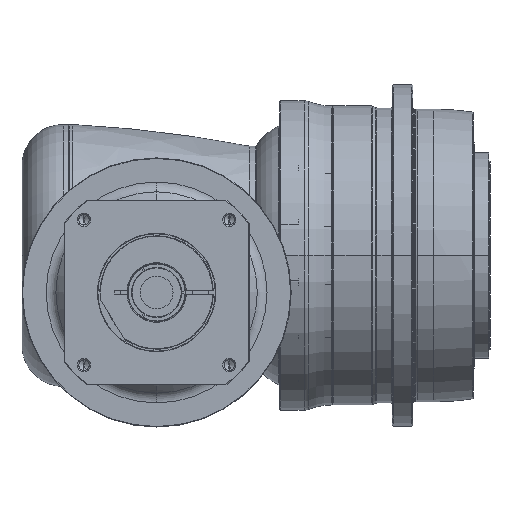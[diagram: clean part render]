
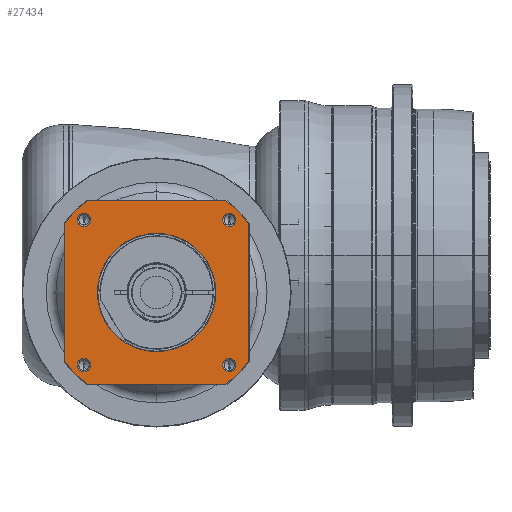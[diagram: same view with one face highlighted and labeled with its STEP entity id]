
A CAD part, front view. The second image highlights one B-rep face of the part: STEP entity #27434.
In plain terms, the highlighted planar face has unit normal (0, -1, 0) as drawn and (0, 0, 1) by its records, which use the part's own axes.
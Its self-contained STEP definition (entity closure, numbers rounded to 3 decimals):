
#26162=DIRECTION('',(1.,0.,0.));
#26163=VECTOR('',#26162,134.666);
#26164=CARTESIAN_POINT('',(-67.333,-89.5,54.));
#26165=LINE('',#26164,#26163);
#26175=CARTESIAN_POINT('',(0.,0.,54.));
#26176=DIRECTION('',(0.,0.,-1.));
#26177=DIRECTION('',(0.,-1.,0.));
#26178=AXIS2_PLACEMENT_3D('',#26175,#26176,#26177);
#26180=CARTESIAN_POINT('',(0.,0.,
54.));
#26181=DIRECTION('',(0.,0.,-1.));
#26182=DIRECTION('',(0.,1.,0.));
#26183=AXIS2_PLACEMENT_3D('',#26180,#26181,#26182);
#26185=CARTESIAN_POINT('',(0.,0.,54.));
#26186=DIRECTION('',(0.,0.,1.));
#26187=DIRECTION('',(-0.799,-0.601,0.));
#26188=AXIS2_PLACEMENT_3D('',#26185,#26186,#26187);
#26200=DIRECTION('',(0.,-1.,0.));
#26201=VECTOR('',#26200,134.666);
#26202=CARTESIAN_POINT('',(-89.5,67.333,54.));
#26203=LINE('',#26202,#26201);
#26213=CARTESIAN_POINT('',(0.,0.,54.));
#26214=DIRECTION('',(0.,0.,1.));
#26215=DIRECTION('',(-0.601,0.799,0.));
#26216=AXIS2_PLACEMENT_3D('',#26213,#26214,#26215);
#26241=DIRECTION('',(-1.,0.,0.));
#26242=VECTOR('',#26241,134.666);
#26243=CARTESIAN_POINT('',(67.333,89.5,54.));
#26244=LINE('',#26243,#26242);
#26249=CARTESIAN_POINT('',(0.,0.,54.));
#26250=DIRECTION('',(0.,0.,1.));
#26251=DIRECTION('',(0.799,0.601,0.));
#26252=AXIS2_PLACEMENT_3D('',#26249,#26250,#26251);
#26264=DIRECTION('',(0.,1.,0.));
#26265=VECTOR('',#26264,134.666);
#26266=CARTESIAN_POINT('',(89.5,-67.333,54.));
#26267=LINE('',#26266,#26265);
#26369=CARTESIAN_POINT('',(0.,0.,54.));
#26370=DIRECTION('',(0.,0.,1.));
#26371=DIRECTION('',(0.601,-0.799,0.));
#26372=AXIS2_PLACEMENT_3D('',#26369,#26370,#26371);
#26651=CARTESIAN_POINT('',(-70.711,70.711,54.));
#26652=DIRECTION('',(0.,0.,1.));
#26653=DIRECTION('',(-1.,0.,0.));
#26654=AXIS2_PLACEMENT_3D('',#26651,#26652,#26653);
#26669=CARTESIAN_POINT('',(-70.711,70.711,54.));
#26670=DIRECTION('',(0.,0.,1.));
#26671=DIRECTION('',(1.,0.,0.));
#26672=AXIS2_PLACEMENT_3D('',#26669,#26670,#26671);
#26705=CARTESIAN_POINT('',(70.711,70.711,54.));
#26706=DIRECTION('',(0.,0.,1.));
#26707=DIRECTION('',(-1.,0.,0.));
#26708=AXIS2_PLACEMENT_3D('',#26705,#26706,#26707);
#26723=CARTESIAN_POINT('',(70.711,70.711,54.));
#26724=DIRECTION('',(0.,0.,1.));
#26725=DIRECTION('',(1.,0.,0.));
#26726=AXIS2_PLACEMENT_3D('',#26723,#26724,#26725);
#26759=CARTESIAN_POINT('',(70.711,-70.711,54.));
#26760=DIRECTION('',(0.,0.,1.));
#26761=DIRECTION('',(-1.,0.,0.));
#26762=AXIS2_PLACEMENT_3D('',#26759,#26760,#26761);
#26777=CARTESIAN_POINT('',(70.711,-70.711,54.));
#26778=DIRECTION('',(0.,0.,1.));
#26779=DIRECTION('',(1.,0.,0.));
#26780=AXIS2_PLACEMENT_3D('',#26777,#26778,#26779);
#26813=CARTESIAN_POINT('',(-70.711,-70.711,54.));
#26814=DIRECTION('',(0.,0.,1.));
#26815=DIRECTION('',(-1.,0.,0.));
#26816=AXIS2_PLACEMENT_3D('',#26813,#26814,#26815);
#26831=CARTESIAN_POINT('',(-70.711,-70.711,54.));
#26832=DIRECTION('',(0.,0.,1.));
#26833=DIRECTION('',(1.,0.,0.));
#26834=AXIS2_PLACEMENT_3D('',#26831,#26832,#26833);
#26875=CARTESIAN_POINT('',(89.5,-67.333,54.));
#26876=CARTESIAN_POINT('',(89.5,67.333,54.));
#26877=VERTEX_POINT('',#26875);
#26878=VERTEX_POINT('',#26876);
#26883=CARTESIAN_POINT('',(67.333,-89.5,54.));
#26884=VERTEX_POINT('',#26883);
#26887=CARTESIAN_POINT('',(-67.333,-89.5,54.));
#26888=VERTEX_POINT('',#26887);
#26891=CARTESIAN_POINT('',(-89.5,-67.333,54.));
#26892=VERTEX_POINT('',#26891);
#26895=CARTESIAN_POINT('',(-89.5,67.333,54.));
#26896=VERTEX_POINT('',#26895);
#26899=CARTESIAN_POINT('',(-67.333,89.5,54.));
#26900=VERTEX_POINT('',#26899);
#26903=CARTESIAN_POINT('',(67.333,89.5,54.));
#26904=VERTEX_POINT('',#26903);
#26953=CARTESIAN_POINT('',(-77.111,70.711,54.));
#26954=CARTESIAN_POINT('',(-64.311,70.711,54.));
#26955=VERTEX_POINT('',#26953);
#26956=VERTEX_POINT('',#26954);
#26987=CARTESIAN_POINT('',(77.111,70.711,54.));
#26988=CARTESIAN_POINT('',(64.311,70.711,54.));
#26989=VERTEX_POINT('',#26987);
#26990=VERTEX_POINT('',#26988);
#26995=CARTESIAN_POINT('',(77.111,-70.711,54.));
#26996=CARTESIAN_POINT('',(64.311,-70.711,54.));
#26997=VERTEX_POINT('',#26995);
#26998=VERTEX_POINT('',#26996);
#27003=CARTESIAN_POINT('',(-64.311,-70.711,54.));
#27004=CARTESIAN_POINT('',(-77.111,-70.711,54.));
#27005=VERTEX_POINT('',#27003);
#27006=VERTEX_POINT('',#27004);
#27011=CARTESIAN_POINT('',(0.,-57.65,54.));
#27012=CARTESIAN_POINT('',(0.,57.65,54.));
#27013=VERTEX_POINT('',#27011);
#27014=VERTEX_POINT('',#27012);
#27382=CARTESIAN_POINT('',(0.,0.,54.));
#27383=DIRECTION('',(0.,0.,1.));
#27384=DIRECTION('',(1.,0.,0.));
#27385=AXIS2_PLACEMENT_3D('',#27382,#27383,#27384);
#27386=PLANE('',#27385);
#27388=ORIENTED_EDGE('',*,*,#27387,.F.);
#27390=ORIENTED_EDGE('',*,*,#27389,.F.);
#27392=ORIENTED_EDGE('',*,*,#27391,.F.);
#27394=ORIENTED_EDGE('',*,*,#27393,.F.);
#27396=ORIENTED_EDGE('',*,*,#27395,.F.);
#27398=ORIENTED_EDGE('',*,*,#27397,.F.);
#27400=ORIENTED_EDGE('',*,*,#27399,.F.);
#27401=ORIENTED_EDGE('',*,*,#27372,.F.);
#27402=EDGE_LOOP('',(#27388,#27390,#27392,#27394,#27396,#27398,#27400,#27401));
#27403=FACE_OUTER_BOUND('',#27402,.F.);
#27405=ORIENTED_EDGE('',*,*,#27404,.F.);
#27407=ORIENTED_EDGE('',*,*,#27406,.F.);
#27408=EDGE_LOOP('',(#27405,#27407));
#27409=FACE_BOUND('',#27408,.F.);
#27411=ORIENTED_EDGE('',*,*,#27410,.T.);
#27413=ORIENTED_EDGE('',*,*,#27412,.T.);
#27414=EDGE_LOOP('',(#27411,#27413));
#27415=FACE_BOUND('',#27414,.F.);
#27417=ORIENTED_EDGE('',*,*,#27416,.T.);
#27419=ORIENTED_EDGE('',*,*,#27418,.T.);
#27420=EDGE_LOOP('',(#27417,#27419));
#27421=FACE_BOUND('',#27420,.F.);
#27423=ORIENTED_EDGE('',*,*,#27422,.T.);
#27425=ORIENTED_EDGE('',*,*,#27424,.T.);
#27426=EDGE_LOOP('',(#27423,#27425));
#27427=FACE_BOUND('',#27426,.F.);
#27429=ORIENTED_EDGE('',*,*,#27428,.T.);
#27431=ORIENTED_EDGE('',*,*,#27430,.T.);
#27432=EDGE_LOOP('',(#27429,#27431));
#27433=FACE_BOUND('',#27432,.F.);
#27434=ADVANCED_FACE('',(#27403,#27409,#27415,#27421,#27427,#27433),#27386,.T.);
#26179=CIRCLE('',#26178,57.65);
#26184=CIRCLE('',#26183,57.65);
#26189=CIRCLE('',#26188,112.);
#26217=CIRCLE('',#26216,112.);
#26253=CIRCLE('',#26252,112.);
#26373=CIRCLE('',#26372,112.);
#26655=CIRCLE('',#26654,6.4);
#26673=CIRCLE('',#26672,6.4);
#26709=CIRCLE('',#26708,6.4);
#26727=CIRCLE('',#26726,6.4);
#26763=CIRCLE('',#26762,6.4);
#26781=CIRCLE('',#26780,6.4);
#26817=CIRCLE('',#26816,6.4);
#26835=CIRCLE('',#26834,6.4);
#27372=EDGE_CURVE('',#26888,#26884,#26165,.T.);
#27387=EDGE_CURVE('',#26892,#26888,#26189,.T.);
#27389=EDGE_CURVE('',#26896,#26892,#26203,.T.);
#27391=EDGE_CURVE('',#26900,#26896,#26217,.T.);
#27393=EDGE_CURVE('',#26904,#26900,#26244,.T.);
#27395=EDGE_CURVE('',#26878,#26904,#26253,.T.);
#27397=EDGE_CURVE('',#26877,#26878,#26267,.T.);
#27399=EDGE_CURVE('',#26884,#26877,#26373,.T.);
#27404=EDGE_CURVE('',#27013,#27014,#26179,.T.);
#27406=EDGE_CURVE('',#27014,#27013,#26184,.T.);
#27410=EDGE_CURVE('',#26955,#26956,#26655,.T.);
#27412=EDGE_CURVE('',#26956,#26955,#26673,.T.);
#27416=EDGE_CURVE('',#26990,#26989,#26709,.T.);
#27418=EDGE_CURVE('',#26989,#26990,#26727,.T.);
#27422=EDGE_CURVE('',#26998,#26997,#26763,.T.);
#27424=EDGE_CURVE('',#26997,#26998,#26781,.T.);
#27428=EDGE_CURVE('',#27006,#27005,#26817,.T.);
#27430=EDGE_CURVE('',#27005,#27006,#26835,.T.);
